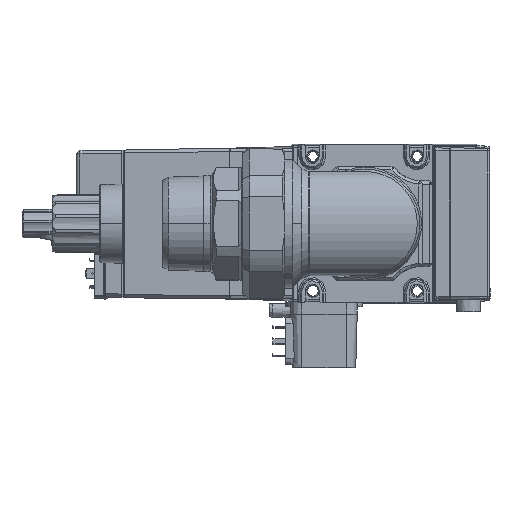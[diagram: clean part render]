
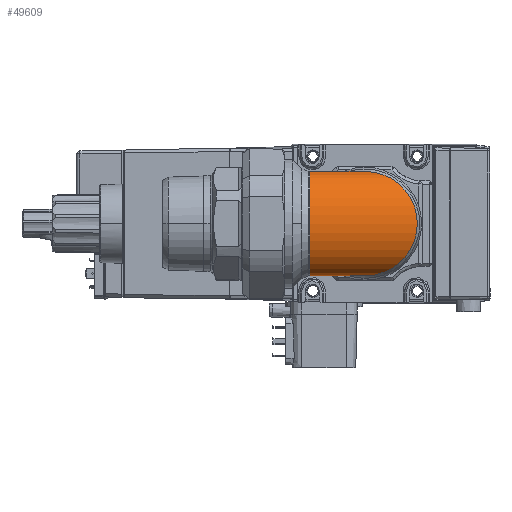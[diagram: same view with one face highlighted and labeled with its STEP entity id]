
A CAD part, left-side view. The second image highlights one B-rep face of the part: STEP entity #49609.
In plain terms, the highlighted toroidal (fillet/blend) face has major radius 35 mm and minor radius 33 mm.
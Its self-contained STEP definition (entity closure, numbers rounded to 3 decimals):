
#598 = CARTESIAN_POINT ( 'NONE',  ( -362.2, 78., 0. ) ) ;
#4811 = FACE_OUTER_BOUND ( 'NONE', #8040, .T. ) ;
#8040 = EDGE_LOOP ( 'NONE', ( #61770, #90316 ) ) ;
#10965 = DIRECTION ( 'NONE',  ( 0., 0., -1. ) ) ;
#12519 = CARTESIAN_POINT ( 'NONE',  ( -329.2, 78., 0. ) ) ;
#12843 = DIRECTION ( 'NONE',  ( -1., 0., 0. ) ) ;
#22587 = CIRCLE ( 'NONE', #34942, 33. ) ;
#31225 = CARTESIAN_POINT ( 'NONE',  ( -294.2, 43., 0. ) ) ;
#34932 = EDGE_CURVE ( 'NONE', #58712, #90958, #22587, .T. ) ;
#34942 = AXIS2_PLACEMENT_3D ( 'NONE', #12519, #94284, #85787 ) ;
#35745 = DIRECTION ( 'NONE',  ( 0., 1., 0. ) ) ;
#37088 = ORIENTED_EDGE ( 'NONE', *, *, #77690, .T. ) ;
#38115 = DIRECTION ( 'NONE',  ( 0., 1., 0. ) ) ;
#38779 = AXIS2_PLACEMENT_3D ( 'NONE', #31225, #53135, #38115 ) ;
#40435 = EDGE_CURVE ( 'NONE', #49766, #90210, #62022, .T. ) ;
#43274 = DIRECTION ( 'NONE',  ( -1., 0., 0. ) ) ;
#44605 = FACE_OUTER_BOUND ( 'NONE', #83553, .T. ) ;
#49609 = ADVANCED_FACE ( 'NONE', ( #44605, #4811 ), #56230, .T. ) ;
#49766 = VERTEX_POINT ( 'NONE', #70429 ) ;
#51059 = AXIS2_PLACEMENT_3D ( 'NONE', #66223, #43274, #35745 ) ;
#53135 = DIRECTION ( 'NONE',  ( -1., 0., 0. ) ) ;
#55752 = CARTESIAN_POINT ( 'NONE',  ( -294.2, 78., 0. ) ) ;
#56230 = TOROIDAL_SURFACE ( 'NONE', #61301, 35., 33. ) ;
#58712 = VERTEX_POINT ( 'NONE', #78705 ) ;
#59727 = CIRCLE ( 'NONE', #38779, 33. ) ;
#61301 = AXIS2_PLACEMENT_3D ( 'NONE', #55752, #10965, #93328 ) ;
#61770 = ORIENTED_EDGE ( 'NONE', *, *, #95798, .T. ) ;
#62022 = CIRCLE ( 'NONE', #51059, 33. ) ;
#62627 = CARTESIAN_POINT ( 'NONE',  ( -294.2, 10., 0. ) ) ;
#66223 = CARTESIAN_POINT ( 'NONE',  ( -294.2, 43., 0. ) ) ;
#70429 = CARTESIAN_POINT ( 'NONE',  ( -294.2, 76., 0. ) ) ;
#72231 = CIRCLE ( 'NONE', #76678, 33. ) ;
#76678 = AXIS2_PLACEMENT_3D ( 'NONE', #87701, #87370, #12843 ) ;
#77690 = EDGE_CURVE ( 'NONE', #90210, #49766, #59727, .T. ) ;
#78705 = CARTESIAN_POINT ( 'NONE',  ( -296.2, 78., 0. ) ) ;
#83553 = EDGE_LOOP ( 'NONE', ( #87594, #37088 ) ) ;
#85787 = DIRECTION ( 'NONE',  ( -1., 0., 0. ) ) ;
#87370 = DIRECTION ( 'NONE',  ( 0., -1., 0. ) ) ;
#87594 = ORIENTED_EDGE ( 'NONE', *, *, #40435, .T. ) ;
#87701 = CARTESIAN_POINT ( 'NONE',  ( -329.2, 78., 0. ) ) ;
#90210 = VERTEX_POINT ( 'NONE', #62627 ) ;
#90316 = ORIENTED_EDGE ( 'NONE', *, *, #34932, .T. ) ;
#90958 = VERTEX_POINT ( 'NONE', #598 ) ;
#93328 = DIRECTION ( 'NONE',  ( 0., 1., 0. ) ) ;
#94284 = DIRECTION ( 'NONE',  ( 0., -1., 0. ) ) ;
#95798 = EDGE_CURVE ( 'NONE', #90958, #58712, #72231, .T. ) ;
